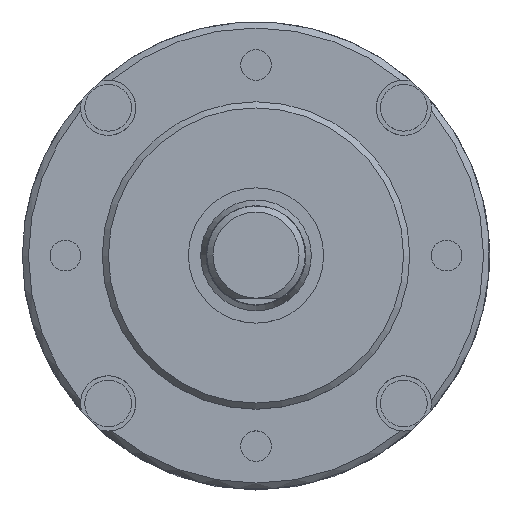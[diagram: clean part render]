
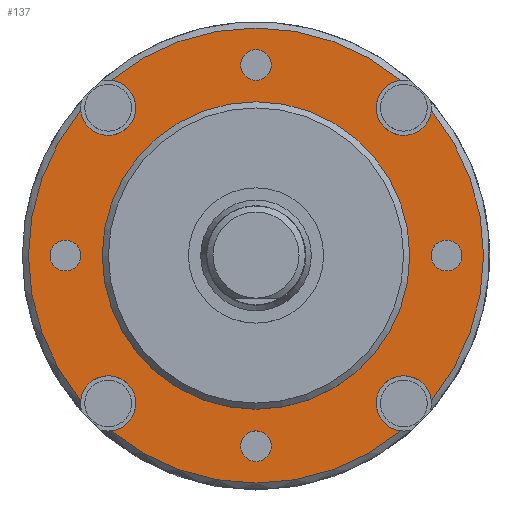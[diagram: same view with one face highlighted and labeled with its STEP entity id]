
A CAD part, top view. The second image highlights one B-rep face of the part: STEP entity #137.
In plain terms, the highlighted planar face has unit normal (0, 0, 1).
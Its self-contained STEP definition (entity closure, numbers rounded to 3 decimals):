
#104=PLANE('',#854);
#137=ADVANCED_FACE('',(#231,#232,#233,#234,#235,#236),#104,.T.);
#231=FACE_BOUND('',#317,.T.);
#232=FACE_BOUND('',#318,.T.);
#233=FACE_BOUND('',#319,.T.);
#234=FACE_BOUND('',#320,.T.);
#235=FACE_BOUND('',#321,.T.);
#236=FACE_BOUND('',#322,.T.);
#317=EDGE_LOOP('',(#439));
#318=EDGE_LOOP('',(#440));
#319=EDGE_LOOP('',(#441));
#320=EDGE_LOOP('',(#442));
#321=EDGE_LOOP('',(#443,#444,#445,#446,#447,#448,#449,#450));
#322=EDGE_LOOP('',(#451));
#439=ORIENTED_EDGE('',*,*,#688,.T.);
#440=ORIENTED_EDGE('',*,*,#689,.T.);
#441=ORIENTED_EDGE('',*,*,#690,.T.);
#442=ORIENTED_EDGE('',*,*,#691,.T.);
#443=ORIENTED_EDGE('',*,*,#692,.F.);
#444=ORIENTED_EDGE('',*,*,#693,.T.);
#445=ORIENTED_EDGE('',*,*,#694,.F.);
#446=ORIENTED_EDGE('',*,*,#695,.T.);
#447=ORIENTED_EDGE('',*,*,#696,.F.);
#448=ORIENTED_EDGE('',*,*,#697,.T.);
#449=ORIENTED_EDGE('',*,*,#698,.F.);
#450=ORIENTED_EDGE('',*,*,#699,.T.);
#451=ORIENTED_EDGE('',*,*,#687,.T.);
#614=VERTEX_POINT('',#1276);
#615=VERTEX_POINT('',#1279);
#616=VERTEX_POINT('',#1281);
#617=VERTEX_POINT('',#1283);
#618=VERTEX_POINT('',#1285);
#619=VERTEX_POINT('',#1287);
#620=VERTEX_POINT('',#1288);
#621=VERTEX_POINT('',#1290);
#622=VERTEX_POINT('',#1292);
#623=VERTEX_POINT('',#1294);
#624=VERTEX_POINT('',#1296);
#625=VERTEX_POINT('',#1298);
#626=VERTEX_POINT('',#1300);
#687=EDGE_CURVE('',#614,#614,#767,.T.);
#688=EDGE_CURVE('',#615,#615,#768,.T.);
#689=EDGE_CURVE('',#616,#616,#769,.T.);
#690=EDGE_CURVE('',#617,#617,#770,.T.);
#691=EDGE_CURVE('',#618,#618,#771,.T.);
#692=EDGE_CURVE('',#619,#620,#772,.T.);
#693=EDGE_CURVE('',#619,#621,#773,.T.);
#694=EDGE_CURVE('',#622,#621,#774,.T.);
#695=EDGE_CURVE('',#622,#623,#775,.T.);
#696=EDGE_CURVE('',#624,#623,#776,.T.);
#697=EDGE_CURVE('',#624,#625,#777,.T.);
#698=EDGE_CURVE('',#626,#625,#778,.T.);
#699=EDGE_CURVE('',#626,#620,#779,.T.);
#767=CIRCLE('',#840,12.5);
#768=CIRCLE('',#842,1.25);
#769=CIRCLE('',#843,1.25);
#770=CIRCLE('',#844,1.25);
#771=CIRCLE('',#845,1.25);
#772=CIRCLE('',#846,2.25);
#773=CIRCLE('',#847,18.5);
#774=CIRCLE('',#848,2.25);
#775=CIRCLE('',#849,18.5);
#776=CIRCLE('',#850,2.25);
#777=CIRCLE('',#851,18.5);
#778=CIRCLE('',#852,2.25);
#779=CIRCLE('',#853,18.5);
#840=AXIS2_PLACEMENT_3D('',#1275,#1002,#1003);
#842=AXIS2_PLACEMENT_3D('',#1278,#1006,#1007);
#843=AXIS2_PLACEMENT_3D('',#1280,#1008,#1009);
#844=AXIS2_PLACEMENT_3D('',#1282,#1010,#1011);
#845=AXIS2_PLACEMENT_3D('',#1284,#1012,#1013);
#846=AXIS2_PLACEMENT_3D('',#1286,#1014,#1015);
#847=AXIS2_PLACEMENT_3D('',#1289,#1016,#1017);
#848=AXIS2_PLACEMENT_3D('',#1291,#1018,#1019);
#849=AXIS2_PLACEMENT_3D('',#1293,#1020,#1021);
#850=AXIS2_PLACEMENT_3D('',#1295,#1022,#1023);
#851=AXIS2_PLACEMENT_3D('',#1297,#1024,#1025);
#852=AXIS2_PLACEMENT_3D('',#1299,#1026,#1027);
#853=AXIS2_PLACEMENT_3D('',#1301,#1028,#1029);
#854=AXIS2_PLACEMENT_3D('',#1302,#1030,#1031);
#1002=DIRECTION('',(0.,0.,-1.));
#1003=DIRECTION('',(1.,0.,0.));
#1006=DIRECTION('',(0.,0.,-1.));
#1007=DIRECTION('',(0.,1.,0.));
#1008=DIRECTION('',(0.,0.,-1.));
#1009=DIRECTION('',(1.,0.,0.));
#1010=DIRECTION('',(0.,0.,-1.));
#1011=DIRECTION('',(0.,-1.,0.));
#1012=DIRECTION('',(0.,0.,-1.));
#1013=DIRECTION('',(-1.,0.,0.));
#1014=DIRECTION('',(0.,0.,1.));
#1015=DIRECTION('',(0.,1.,0.));
#1016=DIRECTION('',(0.,0.,1.));
#1017=DIRECTION('',(1.,0.,0.));
#1018=DIRECTION('',(0.,0.,1.));
#1019=DIRECTION('',(-1.,0.,0.));
#1020=DIRECTION('',(0.,0.,1.));
#1021=DIRECTION('',(1.,0.,0.));
#1022=DIRECTION('',(0.,0.,1.));
#1023=DIRECTION('',(0.,-1.,0.));
#1024=DIRECTION('',(0.,0.,1.));
#1025=DIRECTION('',(1.,0.,0.));
#1026=DIRECTION('',(0.,0.,1.));
#1027=DIRECTION('',(1.,0.,0.));
#1028=DIRECTION('',(0.,0.,1.));
#1029=DIRECTION('',(1.,0.,0.));
#1030=DIRECTION('',(0.,0.,1.));
#1031=DIRECTION('',(1.,0.,0.));
#1275=CARTESIAN_POINT('',(0.,0.,0.));
#1276=CARTESIAN_POINT('',(12.5,0.,0.));
#1278=CARTESIAN_POINT('',(15.5,0.,0.));
#1279=CARTESIAN_POINT('',(15.5,1.25,0.));
#1280=CARTESIAN_POINT('',(0.,-15.5,0.));
#1281=CARTESIAN_POINT('',(1.25,-15.5,0.));
#1282=CARTESIAN_POINT('',(-15.5,0.,0.));
#1283=CARTESIAN_POINT('',(-15.5,-1.25,0.));
#1284=CARTESIAN_POINT('',(0.,15.5,0.));
#1285=CARTESIAN_POINT('',(-1.25,15.5,0.));
#1286=CARTESIAN_POINT('',(-12.021,-12.021,0.));
#1287=CARTESIAN_POINT('',(-11.787,-14.259,0.));
#1288=CARTESIAN_POINT('',(-14.259,-11.787,0.));
#1289=CARTESIAN_POINT('',(0.,0.,0.));
#1290=CARTESIAN_POINT('',(11.787,-14.259,0.));
#1291=CARTESIAN_POINT('',(12.021,-12.021,0.));
#1292=CARTESIAN_POINT('',(14.259,-11.787,0.));
#1293=CARTESIAN_POINT('',(0.,0.,0.));
#1294=CARTESIAN_POINT('',(14.259,11.787,0.));
#1295=CARTESIAN_POINT('',(12.021,12.021,0.));
#1296=CARTESIAN_POINT('',(11.787,14.259,0.));
#1297=CARTESIAN_POINT('',(0.,0.,0.));
#1298=CARTESIAN_POINT('',(-11.787,14.259,0.));
#1299=CARTESIAN_POINT('',(-12.021,12.021,0.));
#1300=CARTESIAN_POINT('',(-14.259,11.787,0.));
#1301=CARTESIAN_POINT('',(0.,0.,0.));
#1302=CARTESIAN_POINT('',(0.,0.,0.));
